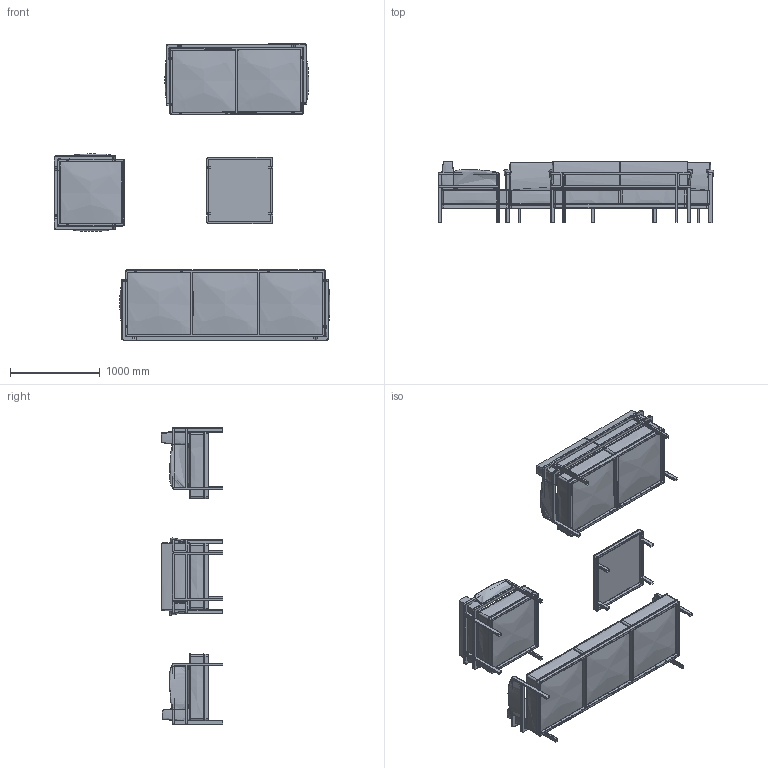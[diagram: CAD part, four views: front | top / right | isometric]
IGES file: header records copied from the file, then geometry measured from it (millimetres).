
Start section: SolidWorks IGES file using analytic representation for surfaces
Global section: file name: C:\Users\ibrahim\Desktop\sofa\sahne-2.IGS; native system: SolidWorks 2015; preprocessor: SolidWorks 2015; author: ibrahim; date: 180208.151650; units: millimetre
Bounding box: 3072.45 x 684.36 x 3303.99 mm (x, y, z)
Surface area: 27501104.9 mm2 (no closed solid volume)
Topology: 0 solids, 0 shells, 2618 faces, 31322 edges, 31322 vertices
Faces by surface type: bspline 1808, revolution 810
